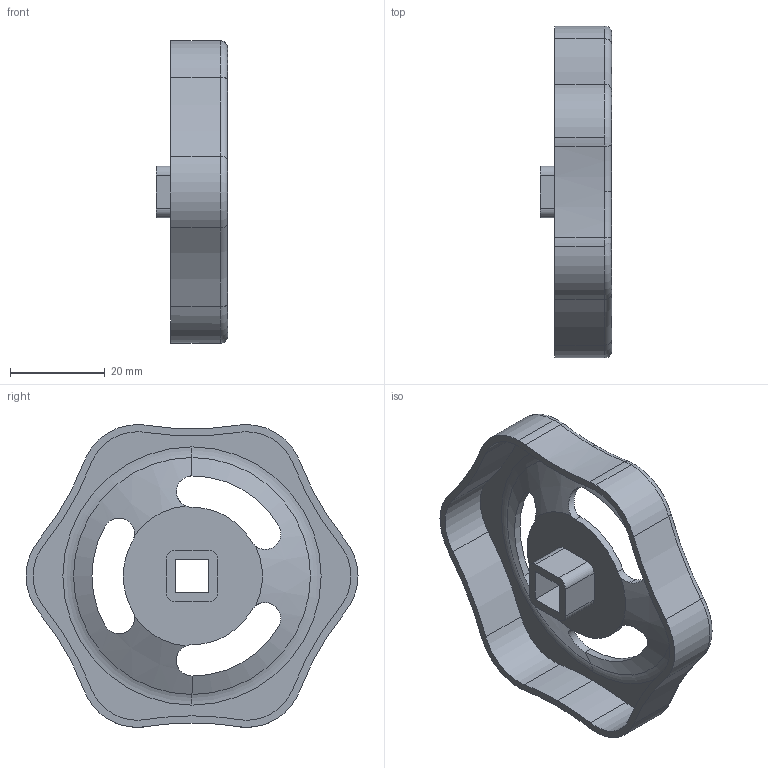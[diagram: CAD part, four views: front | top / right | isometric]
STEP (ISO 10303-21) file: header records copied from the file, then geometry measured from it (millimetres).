
FILE_DESCRIPTION (( 'STEP AP214' ), '1' );
FILE_NAME ('227.6-ST-70-V7-SW.step', '2019-07-30T13:25:59', ( 'user' ), ( '' ), 'SwSTEP 2.0', 'SolidWorks 2019', '' );
FILE_SCHEMA (( 'AUTOMOTIVE_DESIGN' ));
Length unit declared in the file: millimetre
Products named in the file (1): 227.6-ST-70-V7-SW
Bounding box: 15 x 70 x 63.84 mm (x, y, z)
Volume: 8209 mm3; surface area: 11416.8 mm2
Topology: 1 solids, 1 shells, 85 faces, 229 edges, 144 vertices
Faces by surface type: cylinder 48, torus 19, plane 14, cone 4
Entity records: 3098 total; most frequent: CARTESIAN_POINT 827, DIRECTION 522, ORIENTED_EDGE 458, EDGE_CURVE 229, AXIS2_PLACEMENT_3D 223, VERTEX_POINT 144, CIRCLE 137, EDGE_LOOP 91
